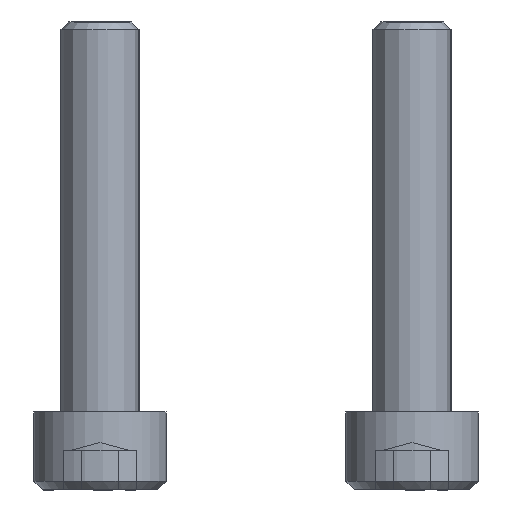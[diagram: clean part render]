
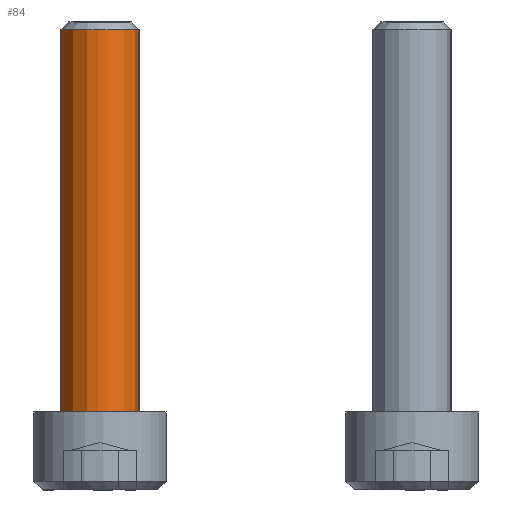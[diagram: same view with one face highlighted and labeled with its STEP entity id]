
A CAD part, left-side view. The second image highlights one B-rep face of the part: STEP entity #84.
In plain terms, the highlighted free-form (B-spline) face has degree [2, 1] with [9, 2] control points.
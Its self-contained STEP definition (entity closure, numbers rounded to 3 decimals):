
#84=ADVANCED_FACE('',(#159),#2228,.T.);
#159=FACE_OUTER_BOUND('',#234,.T.);
#234=EDGE_LOOP('',(#379,#380,#381,#382));
#379=ORIENTED_EDGE('',*,*,#1544,.F.);
#380=ORIENTED_EDGE('',*,*,#1587,.T.);
#381=ORIENTED_EDGE('',*,*,#1546,.F.);
#382=ORIENTED_EDGE('',*,*,#1586,.F.);
#644=(
BOUNDED_CURVE()
B_SPLINE_CURVE(2,(#2929,#2930,#2931,#2932,#2933),.UNSPECIFIED.,.F.,.F.)
B_SPLINE_CURVE_WITH_KNOTS((3,2,3),(-7.854,-3.927,0.),
 .UNSPECIFIED.)
CURVE()
GEOMETRIC_REPRESENTATION_ITEM()
RATIONAL_B_SPLINE_CURVE((1.,0.707,1.,0.707,1.))
REPRESENTATION_ITEM('')
);
#645=(
BOUNDED_CURVE()
B_SPLINE_CURVE(2,(#2942,#2943,#2944,#2945,#2946),.UNSPECIFIED.,.F.,.F.)
B_SPLINE_CURVE_WITH_KNOTS((3,2,3),(-7.854,-3.927,0.),
 .UNSPECIFIED.)
CURVE()
GEOMETRIC_REPRESENTATION_ITEM()
RATIONAL_B_SPLINE_CURVE((1.,0.707,1.,0.707,1.))
REPRESENTATION_ITEM('')
);
#649=(
BOUNDED_CURVE()
B_SPLINE_CURVE(2,(#2968,#2969,#2970,#2971,#2972),.UNSPECIFIED.,.F.,.F.)
B_SPLINE_CURVE_WITH_KNOTS((3,2,3),(-7.854,-3.927,0.),
 .UNSPECIFIED.)
CURVE()
GEOMETRIC_REPRESENTATION_ITEM()
RATIONAL_B_SPLINE_CURVE((1.,0.707,1.,0.707,1.))
REPRESENTATION_ITEM('')
);
#735=PCURVE('',#2223,#1059);
#737=PCURVE('',#2223,#1061);
#808=PCURVE('',#2227,#1132);
#811=PCURVE('',#2228,#1135);
#812=PCURVE('',#2228,#1136);
#813=PCURVE('',#2228,#1137);
#814=PCURVE('',#2228,#1138);
#817=PCURVE('',#2189,#1141);
#1059=DEFINITIONAL_REPRESENTATION('',(#1712),#4285);
#1061=DEFINITIONAL_REPRESENTATION('',(#1715),#4285);
#1132=DEFINITIONAL_REPRESENTATION('',(#1804),#4285);
#1135=DEFINITIONAL_REPRESENTATION('',(#1807),#4285);
#1136=DEFINITIONAL_REPRESENTATION('',(#1808),#4285);
#1137=DEFINITIONAL_REPRESENTATION('',(#1809),#4285);
#1138=DEFINITIONAL_REPRESENTATION('',(#1810),#4285);
#1141=DEFINITIONAL_REPRESENTATION('',(#649),#4285);
#1382=SURFACE_CURVE('',#1711,(#735,#811),.PCURVE_S1.);
#1384=SURFACE_CURVE('',#1714,(#737,#813),.PCURVE_S1.);
#1424=SURFACE_CURVE('',#644,(#808,#814),.PCURVE_S1.);
#1425=SURFACE_CURVE('',#645,(#812,#817),.PCURVE_S1.);
#1544=EDGE_CURVE('',#2083,#2084,#1382,.T.);
#1546=EDGE_CURVE('',#2085,#2086,#1384,.T.);
#1586=EDGE_CURVE('',#2084,#2085,#1424,.T.);
#1587=EDGE_CURVE('',#2083,#2086,#1425,.T.);
#1711=B_SPLINE_CURVE_WITH_KNOTS('',1,(#2665,#2666),.UNSPECIFIED.,.F.,.F.,
(2,2),(-24.51,0.),.UNSPECIFIED.);
#1712=B_SPLINE_CURVE_WITH_KNOTS('',1,(#2667,#2668),.UNSPECIFIED.,.F.,.F.,
(2,2),(-24.51,0.),.UNSPECIFIED.);
#1714=B_SPLINE_CURVE_WITH_KNOTS('',1,(#2676,#2677),.UNSPECIFIED.,.F.,.F.,
(2,2),(-24.51,0.),.UNSPECIFIED.);
#1715=B_SPLINE_CURVE_WITH_KNOTS('',1,(#2678,#2679),.UNSPECIFIED.,.F.,.F.,
(2,2),(-24.51,0.),.UNSPECIFIED.);
#1804=B_SPLINE_CURVE_WITH_KNOTS('',1,(#2934,#2935),.UNSPECIFIED.,.F.,.F.,
(2,2),(-7.854,0.),.UNSPECIFIED.);
#1807=B_SPLINE_CURVE_WITH_KNOTS('',1,(#2940,#2941),.UNSPECIFIED.,.F.,.F.,
(2,2),(-24.51,0.),.UNSPECIFIED.);
#1808=B_SPLINE_CURVE_WITH_KNOTS('',1,(#2947,#2948),.UNSPECIFIED.,.F.,.F.,
(2,2),(-7.854,0.),.UNSPECIFIED.);
#1809=B_SPLINE_CURVE_WITH_KNOTS('',1,(#2949,#2950),.UNSPECIFIED.,.F.,.F.,
(2,2),(-24.51,0.),.UNSPECIFIED.);
#1810=B_SPLINE_CURVE_WITH_KNOTS('',1,(#2951,#2952),.UNSPECIFIED.,.F.,.F.,
(2,2),(-7.854,0.),.UNSPECIFIED.);
#2083=VERTEX_POINT('',#2599);
#2084=VERTEX_POINT('',#2600);
#2085=VERTEX_POINT('',#2601);
#2086=VERTEX_POINT('',#2602);
#2189=PLANE('',#2306);
#2223=(
BOUNDED_SURFACE()
B_SPLINE_SURFACE(2,1,((#2434,#2435),(#2436,#2437),(#2438,#2439),(#2440,#2441),
(#2442,#2443),(#2444,#2445),(#2446,#2447),(#2448,#2449),(#2450,#2451)),
 .UNSPECIFIED.,.T.,.F.,.F.)
B_SPLINE_SURFACE_WITH_KNOTS((3,2,2,2,3),(2,2),(0.,1.571,3.142,
4.712,6.283),(0.,29.414),.UNSPECIFIED.)
GEOMETRIC_REPRESENTATION_ITEM()
RATIONAL_B_SPLINE_SURFACE(((1.,1.),(0.707,0.707),
(1.,1.),(0.707,0.707),(1.,1.),(0.707,
0.707),(1.,1.),(0.707,0.707),(1.,1.)))
REPRESENTATION_ITEM('')
SURFACE()
);
#2227=(
BOUNDED_SURFACE()
B_SPLINE_SURFACE(2,1,((#2519,#2520),(#2521,#2522),(#2523,#2524),(#2525,#2526),
(#2527,#2528),(#2529,#2530),(#2531,#2532),(#2533,#2534),(#2535,#2536)),
 .UNSPECIFIED.,.T.,.F.,.F.)
B_SPLINE_SURFACE_WITH_KNOTS((3,2,2,2,3),(2,2),(0.,1.571,3.142,
4.712,6.283),(0.,3.891),.UNSPECIFIED.)
GEOMETRIC_REPRESENTATION_ITEM()
RATIONAL_B_SPLINE_SURFACE(((1.,1.),(0.707,0.707),
(1.,1.),(0.707,0.707),(1.,1.),(0.707,
0.707),(1.,1.),(0.707,0.707),(1.,1.)))
REPRESENTATION_ITEM('')
SURFACE()
);
#2228=(
BOUNDED_SURFACE()
B_SPLINE_SURFACE(2,1,((#2537,#2538),(#2539,#2540),(#2541,#2542),(#2543,#2544),
(#2545,#2546),(#2547,#2548),(#2549,#2550),(#2551,#2552),(#2553,#2554)),
 .UNSPECIFIED.,.T.,.F.,.F.)
B_SPLINE_SURFACE_WITH_KNOTS((3,2,2,2,3),(2,2),(0.,1.571,3.142,
4.712,6.283),(0.,29.414),.UNSPECIFIED.)
GEOMETRIC_REPRESENTATION_ITEM()
RATIONAL_B_SPLINE_SURFACE(((1.,1.),(0.707,0.707),
(1.,1.),(0.707,0.707),(1.,1.),(0.707,
0.707),(1.,1.),(0.707,0.707),(1.,1.)))
REPRESENTATION_ITEM('')
SURFACE()
);
#2306=AXIS2_PLACEMENT_3D('',#2555,#2358,$);
#2358=DIRECTION('',(1.,0.,0.));
#2434=CARTESIAN_POINT('',(-2.452,0.,2.5));
#2435=CARTESIAN_POINT('',(26.962,0.,2.5));
#2436=CARTESIAN_POINT('',(-2.452,-2.5,2.5));
#2437=CARTESIAN_POINT('',(26.962,-2.5,2.5));
#2438=CARTESIAN_POINT('',(-2.452,-2.5,0.));
#2439=CARTESIAN_POINT('',(26.962,-2.5,0.));
#2440=CARTESIAN_POINT('',(-2.452,-2.5,-2.5));
#2441=CARTESIAN_POINT('',(26.962,-2.5,-2.5));
#2442=CARTESIAN_POINT('',(-2.452,0.,-2.5));
#2443=CARTESIAN_POINT('',(26.962,0.,-2.5));
#2444=CARTESIAN_POINT('',(-2.452,2.5,-2.5));
#2445=CARTESIAN_POINT('',(26.962,2.5,-2.5));
#2446=CARTESIAN_POINT('',(-2.452,2.5,0.));
#2447=CARTESIAN_POINT('',(26.962,2.5,0.));
#2448=CARTESIAN_POINT('',(-2.452,2.5,2.5));
#2449=CARTESIAN_POINT('',(26.962,2.5,2.5));
#2450=CARTESIAN_POINT('',(-2.452,0.,2.5));
#2451=CARTESIAN_POINT('',(26.962,0.,2.5));
#2519=CARTESIAN_POINT('',(27.01,0.,0.));
#2520=CARTESIAN_POINT('',(24.258,0.,-2.751));
#2521=CARTESIAN_POINT('',(27.01,0.,0.));
#2522=CARTESIAN_POINT('',(24.258,-2.751,-2.751));
#2523=CARTESIAN_POINT('',(27.01,0.,0.));
#2524=CARTESIAN_POINT('',(24.258,-2.751,0.));
#2525=CARTESIAN_POINT('',(27.01,0.,0.));
#2526=CARTESIAN_POINT('',(24.258,-2.751,2.751));
#2527=CARTESIAN_POINT('',(27.01,0.,0.));
#2528=CARTESIAN_POINT('',(24.258,0.,2.751));
#2529=CARTESIAN_POINT('',(27.01,0.,0.));
#2530=CARTESIAN_POINT('',(24.258,2.751,2.751));
#2531=CARTESIAN_POINT('',(27.01,0.,0.));
#2532=CARTESIAN_POINT('',(24.258,2.751,0.));
#2533=CARTESIAN_POINT('',(27.01,0.,0.));
#2534=CARTESIAN_POINT('',(24.258,2.751,-2.751));
#2535=CARTESIAN_POINT('',(27.01,0.,0.));
#2536=CARTESIAN_POINT('',(24.258,0.,-2.751));
#2537=CARTESIAN_POINT('',(-2.452,0.,-2.5));
#2538=CARTESIAN_POINT('',(26.962,0.,-2.5));
#2539=CARTESIAN_POINT('',(-2.452,2.5,-2.5));
#2540=CARTESIAN_POINT('',(26.962,2.5,-2.5));
#2541=CARTESIAN_POINT('',(-2.452,2.5,0.));
#2542=CARTESIAN_POINT('',(26.962,2.5,0.));
#2543=CARTESIAN_POINT('',(-2.452,2.5,2.5));
#2544=CARTESIAN_POINT('',(26.962,2.5,2.5));
#2545=CARTESIAN_POINT('',(-2.452,0.,2.5));
#2546=CARTESIAN_POINT('',(26.962,0.,2.5));
#2547=CARTESIAN_POINT('',(-2.452,-2.5,2.5));
#2548=CARTESIAN_POINT('',(26.962,-2.5,2.5));
#2549=CARTESIAN_POINT('',(-2.452,-2.5,0.));
#2550=CARTESIAN_POINT('',(26.962,-2.5,0.));
#2551=CARTESIAN_POINT('',(-2.452,-2.5,-2.5));
#2552=CARTESIAN_POINT('',(26.962,-2.5,-2.5));
#2553=CARTESIAN_POINT('',(-2.452,0.,-2.5));
#2554=CARTESIAN_POINT('',(26.962,0.,-2.5));
#2555=CARTESIAN_POINT('',(0.,5.101,5.101));
#2599=CARTESIAN_POINT('',(0.,2.5,0.));
#2600=CARTESIAN_POINT('',(24.51,2.5,0.));
#2601=CARTESIAN_POINT('',(24.51,-2.5,0.));
#2602=CARTESIAN_POINT('',(0.,-2.5,0.));
#2665=CARTESIAN_POINT('',(0.,2.5,0.));
#2666=CARTESIAN_POINT('',(24.51,2.5,0.));
#2667=CARTESIAN_POINT('',(4.712,2.452));
#2668=CARTESIAN_POINT('',(4.712,26.962));
#2676=CARTESIAN_POINT('',(24.51,-2.5,0.));
#2677=CARTESIAN_POINT('',(0.,-2.5,0.));
#2678=CARTESIAN_POINT('',(1.571,26.962));
#2679=CARTESIAN_POINT('',(1.571,2.452));
#2929=CARTESIAN_POINT('',(24.51,2.5,0.));
#2930=CARTESIAN_POINT('',(24.51,2.5,2.5));
#2931=CARTESIAN_POINT('',(24.51,0.,2.5));
#2932=CARTESIAN_POINT('',(24.51,-2.5,2.5));
#2933=CARTESIAN_POINT('',(24.51,-2.5,0.));
#2934=CARTESIAN_POINT('',(4.712,3.536));
#2935=CARTESIAN_POINT('',(1.571,3.536));
#2940=CARTESIAN_POINT('',(1.571,2.452));
#2941=CARTESIAN_POINT('',(1.571,26.962));
#2942=CARTESIAN_POINT('',(0.,2.5,0.));
#2943=CARTESIAN_POINT('',(0.,2.5,2.5));
#2944=CARTESIAN_POINT('',(0.,0.,2.5));
#2945=CARTESIAN_POINT('',(0.,-2.5,2.5));
#2946=CARTESIAN_POINT('',(0.,-2.5,0.));
#2947=CARTESIAN_POINT('',(1.571,2.452));
#2948=CARTESIAN_POINT('',(4.712,2.452));
#2949=CARTESIAN_POINT('',(4.712,26.962));
#2950=CARTESIAN_POINT('',(4.712,2.452));
#2951=CARTESIAN_POINT('',(1.571,26.962));
#2952=CARTESIAN_POINT('',(4.712,26.962));
#2968=CARTESIAN_POINT('',(0.875,0.));
#2969=CARTESIAN_POINT('',(0.875,-2.5));
#2970=CARTESIAN_POINT('',(3.375,-2.5));
#2971=CARTESIAN_POINT('',(5.875,-2.5));
#2972=CARTESIAN_POINT('',(5.875,0.));
#4285=(
GEOMETRIC_REPRESENTATION_CONTEXT(2)
PARAMETRIC_REPRESENTATION_CONTEXT()
REPRESENTATION_CONTEXT('pspace','')
);
